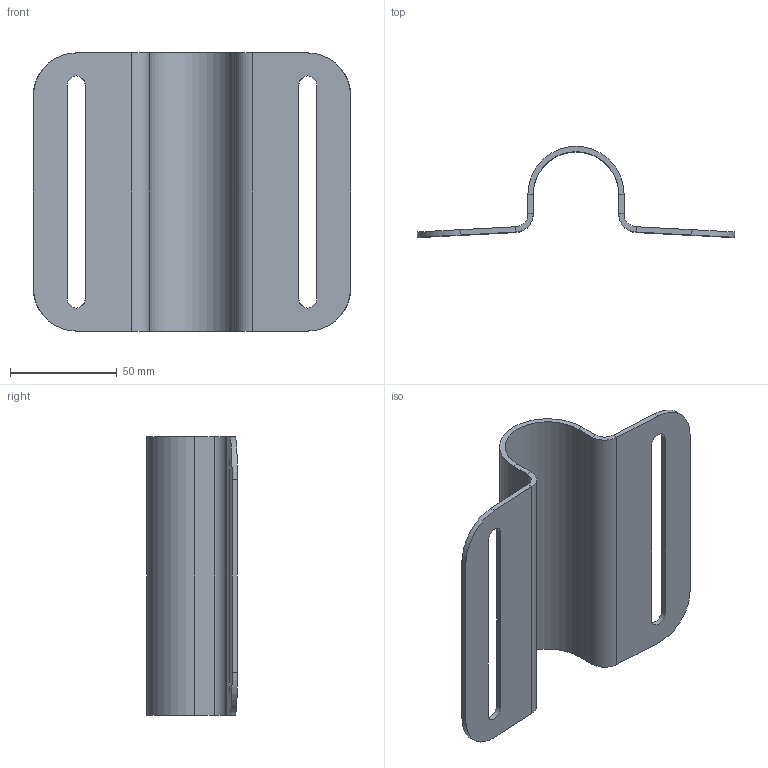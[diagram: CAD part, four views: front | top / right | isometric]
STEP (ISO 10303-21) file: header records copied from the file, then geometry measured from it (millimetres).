
FILE_DESCRIPTION (( 'STEP AP214' ), '1' );
FILE_NAME ('084.313.009.STEP', '2021-03-05T09:47:32', ( '' ), ( '' ), 'SwSTEP 2.0', 'SolidWorks 2018', '' );
FILE_SCHEMA (( 'AUTOMOTIVE_DESIGN' ));
Length unit declared in the file: millimetre
Products named in the file (1): 084.313.009
Bounding box: 148.46 x 42.5 x 130 mm (x, y, z)
Volume: 59344.4 mm3; surface area: 50169.1 mm2
Topology: 1 solids, 1 shells, 42 faces, 96 edges, 56 vertices
Faces by surface type: plane 28, cylinder 14
Entity records: 1198 total; most frequent: DIRECTION 210, CARTESIAN_POINT 195, ORIENTED_EDGE 192, EDGE_CURVE 96, AXIS2_PLACEMENT_3D 71, VECTOR 68, LINE 68, VERTEX_POINT 56
